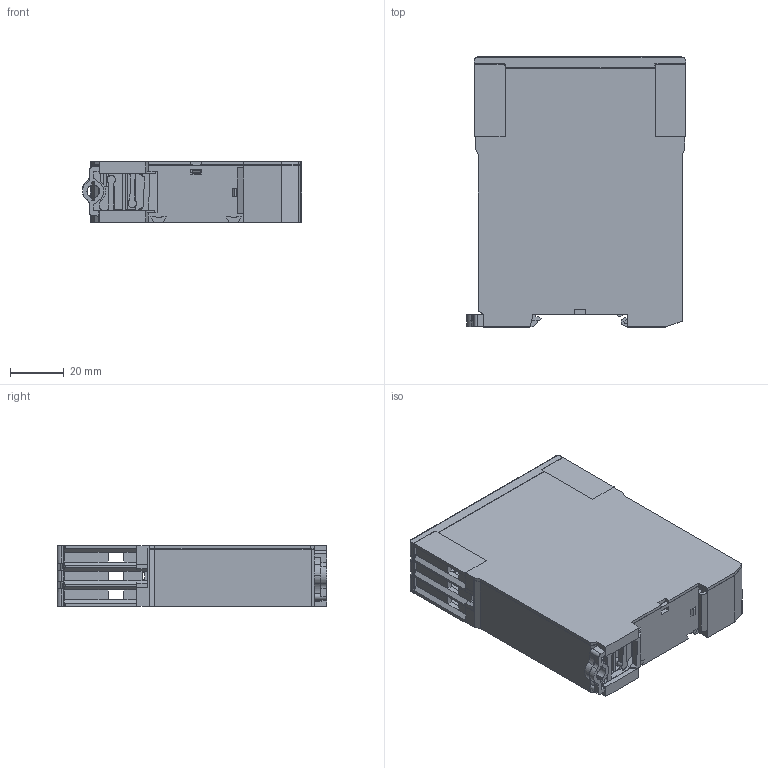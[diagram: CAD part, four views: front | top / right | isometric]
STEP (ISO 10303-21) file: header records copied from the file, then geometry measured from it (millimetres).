
FILE_DESCRIPTION(('STEP AP214'),'2;1');
FILE_NAME('KFT100_280110-skin-OK.stp','2010-02-17T17:20:35',(''),(''),'2007.1.106','THINKDESIGN','');
FILE_SCHEMA(('AUTOMOTIVE_DESIGN'));
Products named in the file (1): None
Bounding box: 81.7 x 100.7 x 22.6 mm (x, y, z)
Surface area: 31102.3 mm2 (no closed solid volume)
Topology: 0 solids, 0 shells, 665 faces, 4098 edges, 4098 vertices
Faces by surface type: plane 475, cylinder 134, bspline 56
Entity records: 40768 total; most frequent: CARTESIAN_POINT 12632, DIRECTION 4920, COMPOSITE_CURVE_SEGMENT 4098, TRIMMED_CURVE 3415, VECTOR 3128, LINE 3128, AXIS2_PLACEMENT_3D 896, OUTER_BOUNDARY_CURVE 665
